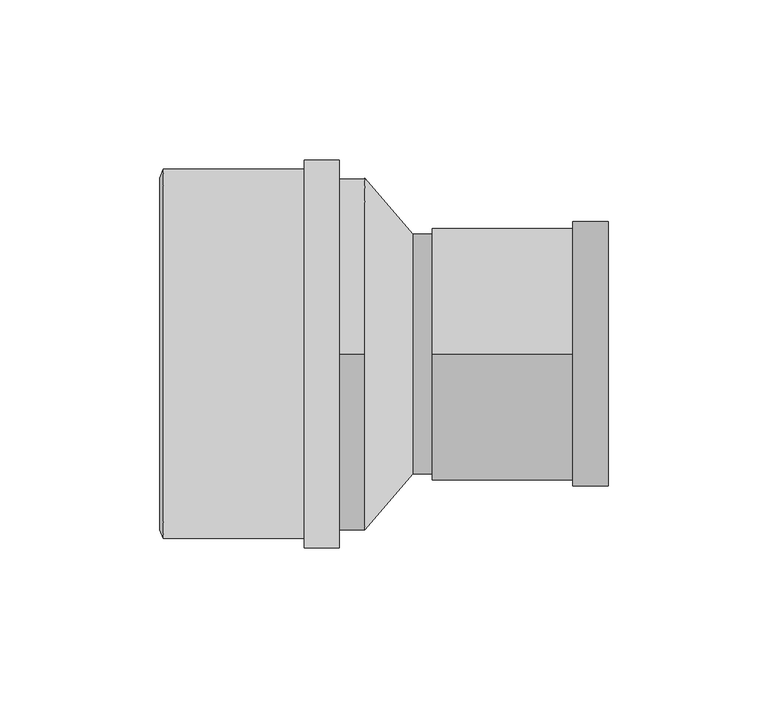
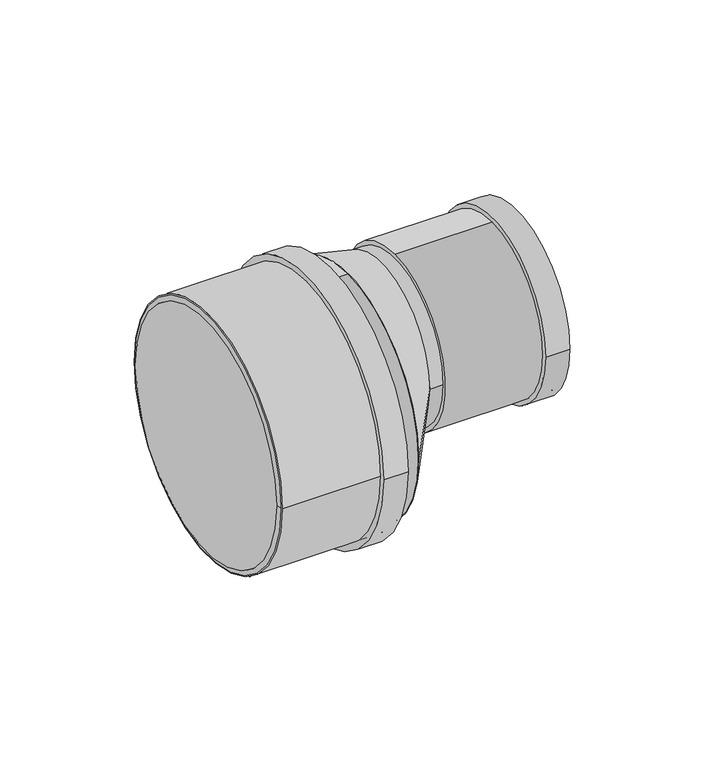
"""IFC4 building model written with IfcOpenShell, lengths in millimetres: pipe fitting geometry, Superdrain HTR-Reducer : Superdrain HTR-Reducer."""

from ifc_helpers import new_model, si_unit, point, frame, frame_2d, origin, origin_2d, place, context, project, spatial, polyline, circle_curve, trimmed, segment, composite_curve, outline, extrude, source, transform, mapped, element, save
from ifc_brep_helpers import plane_surface, revolved_surface, spline_surface, advanced_brep


def pipe_fitting_5a0b59dd(model_context):
    return source(origin(), model_context, "Body", "SolidModel", [
        extrude(outline(composite_curve([segment(trimmed(circle_curve(frame_2d((0.0, 0.1450234)), 57.75), [point((57.75, 0.1450234))], [point((-57.75, 0.1450234))], False, "CARTESIAN"), True, "CONTINUOUS"), segment(trimmed(circle_curve(frame_2d((0.0, 0.1450234)), 57.75), [point((-57.75, 0.1450234))], [point((57.75, 0.1450234))], False, "CARTESIAN"), True, "CONTINUOUS")], self_intersect=False), holes=[composite_curve([segment(trimmed(circle_curve(frame_2d((0.0, 0.1450234)), 55.0), [point((55.0, 0.1450234))], [point((-55.0, 0.1450234))], True, "CARTESIAN"), True, "CONTINUOUS"), segment(trimmed(circle_curve(frame_2d((0.0, 0.1450234)), 55.0), [point((-55.0, 0.1450234))], [point((55.0, 0.1450234))], True, "CARTESIAN"), True, "CONTINUOUS")], self_intersect=False)]), frame((-63.0, 0.0, 0.0), z_axis=(1.0, 0.0, 0.0), x_axis=(0.0, 1.0, 0.0)), (0.0, 0.0, 1.0), 55.0),
        extrude(outline(composite_curve([segment(trimmed(circle_curve(frame_2d((0.0, 0.1450234)), 60.6375), [point((60.6375, 0.1450234))], [point((-60.6375, 0.1450234))], False, "CARTESIAN"), True, "CONTINUOUS"), segment(trimmed(circle_curve(frame_2d((0.0, 0.1450234)), 60.6375), [point((-60.6375, 0.1450234))], [point((60.6375, 0.1450234))], False, "CARTESIAN"), True, "CONTINUOUS")], self_intersect=False), holes=[composite_curve([segment(trimmed(circle_curve(frame_2d((0.0, 0.1450234)), 55.0), [point((55.0, 0.1450234))], [point((-55.0, 0.1450234))], True, "CARTESIAN"), True, "CONTINUOUS"), segment(trimmed(circle_curve(frame_2d((0.0, 0.1450234)), 55.0), [point((-55.0, 0.1450234))], [point((55.0, 0.1450234))], True, "CARTESIAN"), True, "CONTINUOUS")], self_intersect=False)]), frame((-19.0, 0.0, 0.0), z_axis=(1.0, 0.0, 0.0), x_axis=(0.0, 1.0, 0.0)), (0.0, 0.0, 1.0), 11.0),
        advanced_brep(
        [(-64.0, 55.0, 0.1450234), (-64.0, -55.0, 0.1450234), (-63.0, 57.75, 0.1450234), (-63.0, -57.75, 0.1450234)],
        [
            (0, 1, circle_curve(frame((-64.0, 0.0, 0.1450234), z_axis=(-1.0, 0.0, 0.0), x_axis=(0.0, 1.0000000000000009, 0.0)), 55.0)),
            (1, 0, circle_curve(frame((-64.0, 0.0, 0.1450234), z_axis=(-1.0, 0.0, 0.0), x_axis=(0.0, -1.0000000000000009, 0.0)), 55.0)),
            (2, 3, circle_curve(frame((-63.0, 0.0, 0.1450234), z_axis=(1.0, 0.0, 0.0), x_axis=(0.0, -1.0000000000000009, 0.0)), 57.75)),
            (3, 2, circle_curve(frame((-63.0, 0.0, 0.1450234), z_axis=(1.0, 0.0, 0.0), x_axis=(0.0, 1.0000000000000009, 0.0)), 57.75)),
            (3, 1),
            (0, 2),
        ],
        [
            plane_surface(frame((-64.0, 0.0, 0.1450234), z_axis=(-1.0, 0.0, 0.0), x_axis=(0.0, 0.0, -1.0))),
            plane_surface(frame((-63.0, 0.0, 0.1450234), z_axis=(1.0, 0.0, 0.0), x_axis=(0.0, 0.0, -1.0))),
            revolved_surface(polyline([(-64.0, 54.99999999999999, 0.1450234), (-63.0, 57.75, 0.1450234)]), (-84.0, 0.0, 0.1450234), (1.0000000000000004, 0.0, 0.0)),
            revolved_surface(polyline([(-64.0, -54.99999999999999, 0.1450234), (-63.0, -57.75, 0.1450234)]), (-84.0, 0.0, 0.1450234), (1.0000000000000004, 0.0, 0.0)),
        ],
        [
            (0, [[1, 2]]),
            (1, [[3, 4]]),
            (2, [[-4, 5, -1, 6]]),
            (3, [[-3, -6, -2, -5]]),
        ],
    ),
        advanced_brep(
        [(15.0, -37.5, 17.5), (15.0, 37.5, 17.5), (0.0, -55.0, 0.0), (0.0, 55.0, 0.0)],
        [
            (0, 1, circle_curve(frame((15.0, 0.0, 17.5), z_axis=(1.0, 0.0, 0.0), x_axis=(0.0, 1.0, 0.0)), 37.5)),
            (1, 0, circle_curve(frame((15.0, 0.0, 17.5), z_axis=(1.0, 0.0, 0.0), x_axis=(0.0, 1.0, 0.0)), 37.5)),
            (2, 3, circle_curve(frame((0.0, 0.0, 0.0), z_axis=(-1.0, 0.0, 0.0), x_axis=(0.0, 1.0, 0.0)), 55.0)),
            (3, 2, circle_curve(frame((0.0, 0.0, 0.0), z_axis=(-1.0, 0.0, 0.0), x_axis=(0.0, 1.0, 0.0)), 55.0)),
            (3, 1),
            (0, 2),
        ],
        [
            plane_surface(frame((15.0, 0.0, 17.5), z_axis=(1.0, 0.0, 0.0), x_axis=(0.0, 0.0, -1.0))),
            plane_surface(frame((0.0, 0.0, 0.0), z_axis=(-1.0, 0.0, 0.0), x_axis=(0.0, 0.0, -1.0))),
            spline_surface(2, 1, [[(0.0, -55.0, 0.0), (15.0, -37.5, 17.5)], [(0.0, -55.0, -55.0), (15.0, -37.5, -20.0)], [(0.0, 0.0, -55.0), (15.0, 0.0, -20.0)], [(0.0, 55.0, -55.0), (15.0, 37.5, -20.0)], [(0.0, 55.0, 0.0), (15.0, 37.5, 17.5)]], [3, 2, 3], [2, 2], [0.0, 1.0, 2.0], [0.0, 1.0], weights=[[1.0, 1.0], [0.7071067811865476, 0.7071067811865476], [1.0, 1.0], [0.7071067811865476, 0.7071067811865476], [1.0, 1.0]]),
            spline_surface(2, 1, [[(0.0, 55.0, 0.0), (15.0, 37.5, 17.5)], [(0.0, 55.0, 55.0), (15.0, 37.5, 55.0)], [(0.0, 0.0, 55.0), (15.0, 0.0, 55.0)], [(0.0, -55.0, 55.0), (15.0, -37.5, 55.0)], [(0.0, -55.0, 0.0), (15.0, -37.5, 17.5)]], [3, 2, 3], [2, 2], [0.0, 1.0, 2.0], [0.0, 1.0], weights=[[1.0, 1.0], [0.7071067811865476, 0.7071067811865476], [1.0, 1.0], [0.7071067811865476, 0.7071067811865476], [1.0, 1.0]]),
        ],
        [
            (0, [[1, 2]]),
            (1, [[3, 4]]),
            (2, [[-4, 5, -1, 6]]),
            (3, [[-3, -6, -2, -5]]),
        ],
    ),
        extrude(outline(composite_curve([segment(trimmed(circle_curve(frame_2d((0.0, 17.5)), 37.5), [point((-37.5, 17.5))], [point((37.5, 17.5))], False, "CARTESIAN"), True, "CONTINUOUS"), segment(trimmed(circle_curve(frame_2d((0.0, 17.5)), 37.5), [point((37.5, 17.5))], [point((-37.5, 17.5))], False, "CARTESIAN"), True, "CONTINUOUS")], self_intersect=False)), frame((15.0, 0.0, 0.0), z_axis=(1.0, 0.0, 0.0), x_axis=(0.0, 1.0, 0.0)), (0.0, 0.0, 1.0), 6.0),
        extrude(outline(composite_curve([segment(trimmed(circle_curve(frame_2d((0.0, 17.5)), 41.34375), [point((-41.34375, 17.5))], [point((41.34375, 17.5))], False, "CARTESIAN"), True, "CONTINUOUS"), segment(trimmed(circle_curve(frame_2d((0.0, 17.5)), 41.34375), [point((41.34375, 17.5))], [point((-41.34375, 17.5))], False, "CARTESIAN"), True, "CONTINUOUS")], self_intersect=False), holes=[composite_curve([segment(trimmed(circle_curve(frame_2d((0.0, 17.5)), 37.5), [point((37.5, 17.5))], [point((-37.5, 17.5))], True, "CARTESIAN"), True, "CONTINUOUS"), segment(trimmed(circle_curve(frame_2d((0.0, 17.5)), 37.5), [point((-37.5, 17.5))], [point((37.5, 17.5))], True, "CARTESIAN"), True, "CONTINUOUS")], self_intersect=False)]), frame((65.0, 0.0, 0.0), z_axis=(1.0, 0.0, 0.0), x_axis=(0.0, 1.0, 0.0)), (0.0, 0.0, 1.0), 11.0),
        extrude(outline(composite_curve([segment(trimmed(circle_curve(frame_2d((0.0, 17.5)), 39.375), [point((0.0, 56.875))], [point((0.0, -21.875))], False, "CARTESIAN"), True, "CONTINUOUS"), segment(trimmed(circle_curve(frame_2d((0.0, 17.5)), 39.375), [point((0.0, -21.875))], [point((0.0, 56.875))], False, "CARTESIAN"), True, "CONTINUOUS")], self_intersect=False), holes=[composite_curve([segment(trimmed(circle_curve(frame_2d((0.0, 17.5)), 37.5), [point((37.5, 17.5))], [point((-37.5, 17.5))], True, "CARTESIAN"), True, "CONTINUOUS"), segment(trimmed(circle_curve(frame_2d((0.0, 17.5)), 37.5), [point((-37.5, 17.5))], [point((37.5, 17.5))], True, "CARTESIAN"), True, "CONTINUOUS")], self_intersect=False)]), frame((21.0, 0.0, 0.0), z_axis=(1.0, 0.0, 0.0), x_axis=(0.0, 1.0, 0.0)), (0.0, 0.0, 1.0), 55.0),
        extrude(outline(composite_curve([segment(trimmed(circle_curve(origin_2d(), 55.0), [point((0.0, 55.0))], [point((0.0, -55.0))], False, "CARTESIAN"), True, "CONTINUOUS"), segment(trimmed(circle_curve(origin_2d(), 55.0), [point((0.0, -55.0))], [point((0.0, 55.0))], False, "CARTESIAN"), True, "CONTINUOUS")], self_intersect=False)), frame((-63.0, 0.0, 0.0), z_axis=(1.0, 0.0, 0.0), x_axis=(0.0, 1.0, 0.0)), (0.0, 0.0, 1.0), 63.0),
    ])


if __name__ == "__main__":
    model = new_model("IFC4")
    model_context = context("Model", 3, world=origin())
    ifc_project = project(units=[si_unit("LENGTHUNIT", "METRE", prefix="MILLI")], contexts=[model_context])
    site = spatial("IfcSite", under=ifc_project)
    building = spatial("IfcBuilding", under=site)
    placement = place(None, origin())
    pipe_fitting_shape = pipe_fitting_5a0b59dd(model_context)
    element("IfcPipeFitting", 1, ObjectType="Superdrain HTR-Reducer : Superdrain HTR-Reducer", at=placement, inside=building, context=model_context, shape_type="MappedRepresentation", body=[
        mapped(pipe_fitting_shape, transform((0.0, 0.0, 0.0), x_axis=(1.0, 0.0, 0.0), y_axis=(0.0, 1.0, 0.0), z_axis=(0.0, 0.0, 1.0))),
    ])
    save(model, "model.ifc")
